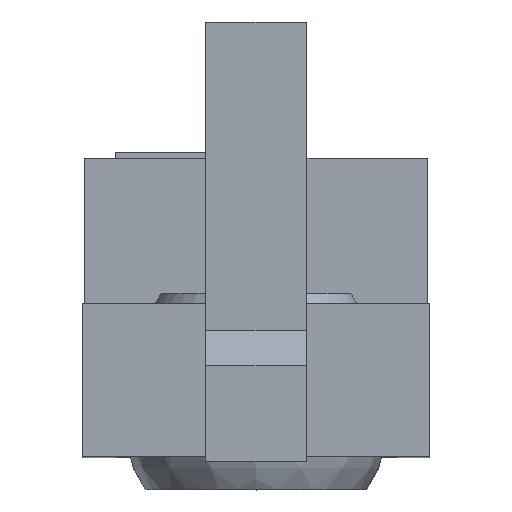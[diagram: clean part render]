
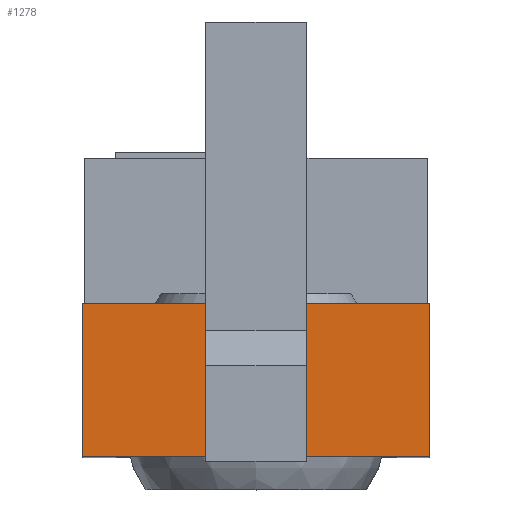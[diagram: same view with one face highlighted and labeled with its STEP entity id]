
A CAD part, top view. The second image highlights one B-rep face of the part: STEP entity #1278.
In plain terms, the highlighted planar face has unit normal (0, 0, 1).
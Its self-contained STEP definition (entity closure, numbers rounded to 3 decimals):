
#36=FACE_BOUND('',#186,.T.);
#48=PLANE('',#1429);
#112=FACE_OUTER_BOUND('',#185,.T.);
#185=EDGE_LOOP('',(#920,#921,#922,#923));
#186=EDGE_LOOP('',(#924));
#260=LINE('',#1884,#416);
#266=LINE('',#1896,#422);
#269=LINE('',#1901,#425);
#270=LINE('',#1902,#426);
#416=VECTOR('',#1538,10.);
#422=VECTOR('',#1546,10.);
#425=VECTOR('',#1553,10.);
#426=VECTOR('',#1554,10.);
#572=CIRCLE('',#1424,25.513);
#596=VERTEX_POINT('',#1875);
#598=VERTEX_POINT('',#1881);
#599=VERTEX_POINT('',#1883);
#601=VERTEX_POINT('',#1889);
#604=VERTEX_POINT('',#1894);
#718=EDGE_CURVE('',#596,#596,#572,.T.);
#720=EDGE_CURVE('',#598,#599,#260,.T.);
#726=EDGE_CURVE('',#604,#601,#266,.T.);
#729=EDGE_CURVE('',#601,#598,#269,.T.);
#730=EDGE_CURVE('',#599,#604,#270,.T.);
#920=ORIENTED_EDGE('',*,*,#729,.F.);
#921=ORIENTED_EDGE('',*,*,#726,.F.);
#922=ORIENTED_EDGE('',*,*,#730,.F.);
#923=ORIENTED_EDGE('',*,*,#720,.F.);
#924=ORIENTED_EDGE('',*,*,#718,.T.);
#1278=ADVANCED_FACE('',(#112,#36),#48,.T.);
#1424=AXIS2_PLACEMENT_3D('',#1877,#1531,#1532);
#1429=AXIS2_PLACEMENT_3D('',#1900,#1551,#1552);
#1531=DIRECTION('center_axis',(0.,0.,-1.));
#1532=DIRECTION('ref_axis',(-1.,0.,0.));
#1538=DIRECTION('',(-1.,0.,0.));
#1546=DIRECTION('',(1.,0.,0.));
#1551=DIRECTION('center_axis',(0.,0.,1.));
#1552=DIRECTION('ref_axis',(1.,0.,0.));
#1553=DIRECTION('',(0.,-1.,0.));
#1554=DIRECTION('',(0.,1.,0.));
#1875=CARTESIAN_POINT('',(20.713,0.,190.));
#1877=CARTESIAN_POINT('Origin',(-4.8,0.,190.));
#1881=CARTESIAN_POINT('',(38.,-95.,190.));
#1883=CARTESIAN_POINT('',(-46.3,-95.,190.));
#1884=CARTESIAN_POINT('',(0.,-95.,190.));
#1889=CARTESIAN_POINT('',(38.,95.,190.));
#1894=CARTESIAN_POINT('',(-46.3,95.,190.));
#1896=CARTESIAN_POINT('',(0.,95.,190.));
#1900=CARTESIAN_POINT('Origin',(0.,93.,190.));
#1901=CARTESIAN_POINT('',(38.,-93.,190.));
#1902=CARTESIAN_POINT('',(-46.3,93.,190.));
